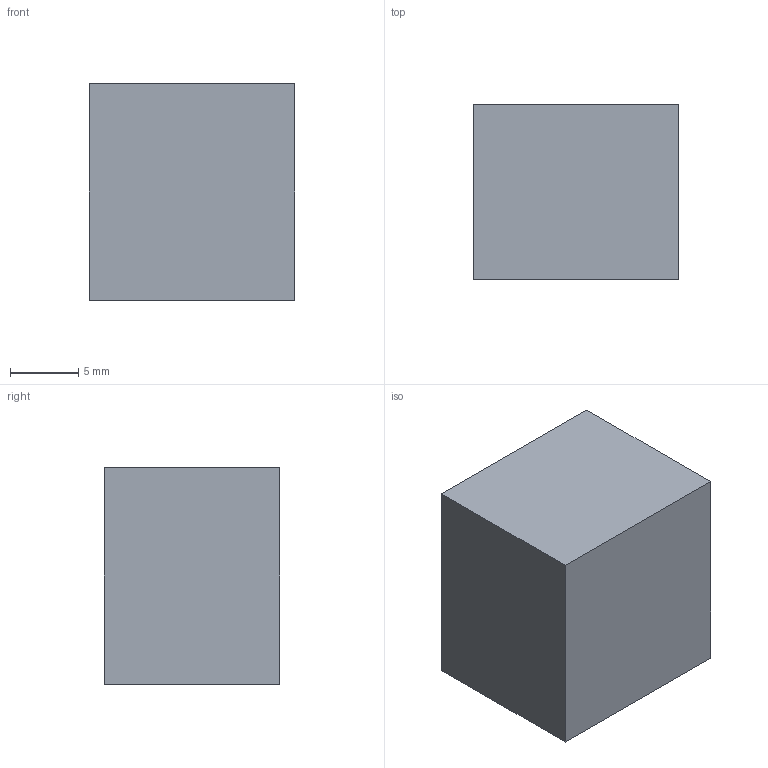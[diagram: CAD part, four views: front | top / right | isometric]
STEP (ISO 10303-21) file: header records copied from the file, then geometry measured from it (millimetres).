
FILE_DESCRIPTION(('Open CASCADE Model'),'2;1');
FILE_NAME('Open CASCADE Shape Model','2026-09-24T05:33:18',('Author'),( 'Open CASCADE'),'Open CASCADE STEP processor 7.8','Open CASCADE 7.8' ,'Unknown');
FILE_SCHEMA(('AUTOMOTIVE_DESIGN { 1 0 10303 214 1 1 1 1 }'));
Length unit declared in the file: millimetre
Products named in the file (1): Open CASCADE STEP translator 7.8 41
Bounding box: 15 x 12.8 x 15.8 mm (x, y, z)
Volume: 3033.6 mm3; surface area: 1262.5 mm2
Topology: 1 solids, 1 shells, 6 faces, 12 edges, 8 vertices
Faces by surface type: plane 6
Entity records: 322 total; most frequent: CARTESIAN_POINT 51, DIRECTION 50, LINE 36, VECTOR 36, ORIENTED_EDGE 24, PCURVE 24, DEFINITIONAL_REPRESENTATION 24, EDGE_CURVE 12
